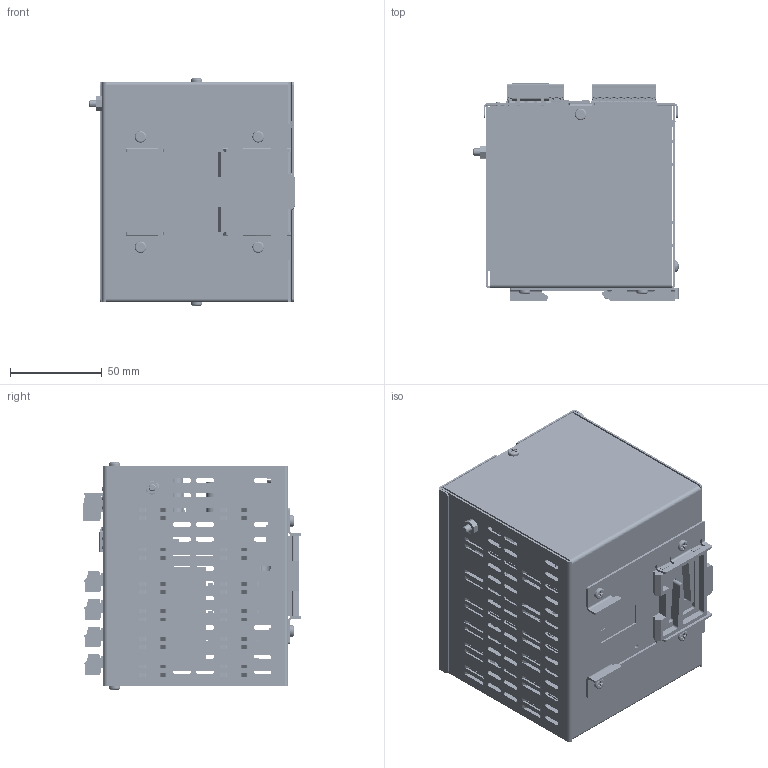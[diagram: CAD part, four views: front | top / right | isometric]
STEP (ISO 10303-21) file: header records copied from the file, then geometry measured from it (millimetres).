
FILE_DESCRIPTION((''),'2;1');
FILE_NAME('MINI8_ETHERNET_IGESFILE','2012-04-02T',('chrisloe'),(''),'PRO/ENGINEER BY PARAMETRIC TECHNOLOGY CORPORATION, 2010180','PRO/ENGINEER BY PARAMETRIC TECHNOLOGY CORPORATION, 2010180','');
FILE_SCHEMA(('CONFIG_CONTROL_DESIGN'));
Products named in the file (1): MINI8_ETHERNET_IGESFILE
Bounding box: 112 x 118.69 x 123.6 mm (x, y, z)
Volume: 391161.8 mm3; surface area: 395099.6 mm2
Topology: 33 solids, 311 shells, 19319 faces, 49702 edges, 31640 vertices
Faces by surface type: plane 14135, cylinder 4490, cone 289, torus 233, sphere 166, bspline 6
Entity records: 590324 total; most frequent: CARTESIAN_POINT 116733, ORIENTED_EDGE 98906, DIRECTION 95502, EDGE_CURVE 49467, VECTOR 36196, LINE 36196, VERTEX_POINT 31640, AXIS2_PLACEMENT_3D 29653
